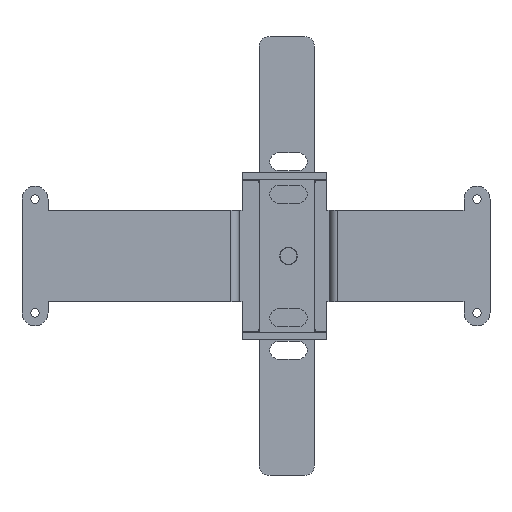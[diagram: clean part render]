
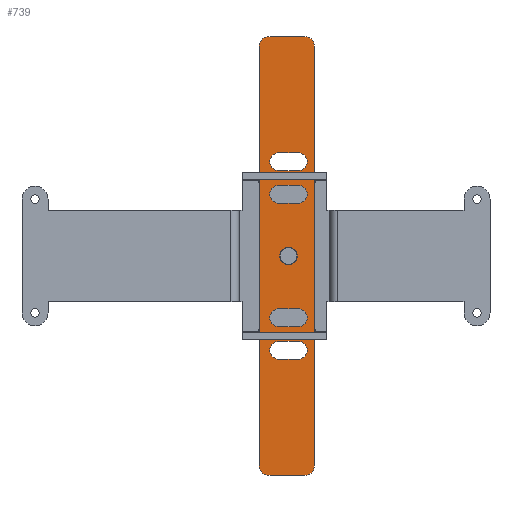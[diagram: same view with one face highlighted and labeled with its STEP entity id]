
A CAD part, front view. The second image highlights one B-rep face of the part: STEP entity #739.
In plain terms, the highlighted planar face has unit normal (0, -1, 0) as drawn and (0, 0, -1) by its records, which use the part's own axes.
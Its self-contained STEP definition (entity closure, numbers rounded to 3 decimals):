
#577=FACE_BOUND('',#1061,.T.);
#578=FACE_BOUND('',#1062,.T.);
#579=FACE_BOUND('',#1063,.T.);
#580=FACE_BOUND('',#1064,.T.);
#581=FACE_BOUND('',#1065,.T.);
#582=FACE_BOUND('',#1066,.T.);
#633=PLANE('',#3208);
#739=ADVANCED_FACE('',(#577,#578,#579,#580,#581,#582),#633,.F.);
#1061=EDGE_LOOP('',(#1717,#1718,#1719,#1720,#1721,#1722,#1723,#1724));
#1062=EDGE_LOOP('',(#1725,#1726));
#1063=EDGE_LOOP('',(#1727,#1728,#1729,#1730));
#1064=EDGE_LOOP('',(#1731,#1732,#1733,#1734));
#1065=EDGE_LOOP('',(#1735,#1736,#1737,#1738));
#1066=EDGE_LOOP('',(#1739,#1740,#1741,#1742));
#1195=CIRCLE('',#3194,3.);
#1196=CIRCLE('',#3195,3.);
#1197=CIRCLE('',#3196,3.);
#1198=CIRCLE('',#3197,3.);
#1199=CIRCLE('',#3198,2.75);
#1200=CIRCLE('',#3199,2.75);
#1201=CIRCLE('',#3200,2.75);
#1202=CIRCLE('',#3201,2.75);
#1203=CIRCLE('',#3202,2.75);
#1204=CIRCLE('',#3203,2.75);
#1205=CIRCLE('',#3204,2.75);
#1206=CIRCLE('',#3205,2.75);
#1207=CIRCLE('',#3206,2.75);
#1208=CIRCLE('',#3207,2.75);
#1717=ORIENTED_EDGE('',*,*,#2439,.F.);
#1718=ORIENTED_EDGE('',*,*,#2440,.T.);
#1719=ORIENTED_EDGE('',*,*,#2441,.F.);
#1720=ORIENTED_EDGE('',*,*,#2442,.T.);
#1721=ORIENTED_EDGE('',*,*,#2443,.F.);
#1722=ORIENTED_EDGE('',*,*,#2444,.T.);
#1723=ORIENTED_EDGE('',*,*,#2445,.F.);
#1724=ORIENTED_EDGE('',*,*,#2446,.T.);
#1725=ORIENTED_EDGE('',*,*,#2447,.F.);
#1726=ORIENTED_EDGE('',*,*,#2448,.F.);
#1727=ORIENTED_EDGE('',*,*,#2449,.F.);
#1728=ORIENTED_EDGE('',*,*,#2450,.F.);
#1729=ORIENTED_EDGE('',*,*,#2451,.F.);
#1730=ORIENTED_EDGE('',*,*,#2452,.F.);
#1731=ORIENTED_EDGE('',*,*,#2453,.F.);
#1732=ORIENTED_EDGE('',*,*,#2454,.F.);
#1733=ORIENTED_EDGE('',*,*,#2455,.F.);
#1734=ORIENTED_EDGE('',*,*,#2456,.F.);
#1735=ORIENTED_EDGE('',*,*,#2457,.F.);
#1736=ORIENTED_EDGE('',*,*,#2458,.F.);
#1737=ORIENTED_EDGE('',*,*,#2459,.F.);
#1738=ORIENTED_EDGE('',*,*,#2460,.F.);
#1739=ORIENTED_EDGE('',*,*,#2461,.F.);
#1740=ORIENTED_EDGE('',*,*,#2462,.F.);
#1741=ORIENTED_EDGE('',*,*,#2463,.F.);
#1742=ORIENTED_EDGE('',*,*,#2464,.F.);
#2121=VERTEX_POINT('',#4530);
#2122=VERTEX_POINT('',#4531);
#2123=VERTEX_POINT('',#4533);
#2124=VERTEX_POINT('',#4535);
#2125=VERTEX_POINT('',#4537);
#2126=VERTEX_POINT('',#4539);
#2127=VERTEX_POINT('',#4541);
#2128=VERTEX_POINT('',#4543);
#2129=VERTEX_POINT('',#4546);
#2130=VERTEX_POINT('',#4547);
#2131=VERTEX_POINT('',#4550);
#2132=VERTEX_POINT('',#4551);
#2133=VERTEX_POINT('',#4553);
#2134=VERTEX_POINT('',#4555);
#2135=VERTEX_POINT('',#4558);
#2136=VERTEX_POINT('',#4559);
#2137=VERTEX_POINT('',#4561);
#2138=VERTEX_POINT('',#4563);
#2139=VERTEX_POINT('',#4566);
#2140=VERTEX_POINT('',#4567);
#2141=VERTEX_POINT('',#4569);
#2142=VERTEX_POINT('',#4571);
#2143=VERTEX_POINT('',#4574);
#2144=VERTEX_POINT('',#4575);
#2145=VERTEX_POINT('',#4577);
#2146=VERTEX_POINT('',#4579);
#2439=EDGE_CURVE('',#2121,#2122,#2727,.T.);
#2440=EDGE_CURVE('',#2121,#2123,#1195,.T.);
#2441=EDGE_CURVE('',#2124,#2123,#2728,.T.);
#2442=EDGE_CURVE('',#2124,#2125,#1196,.T.);
#2443=EDGE_CURVE('',#2126,#2125,#2729,.T.);
#2444=EDGE_CURVE('',#2126,#2127,#1197,.T.);
#2445=EDGE_CURVE('',#2128,#2127,#2730,.T.);
#2446=EDGE_CURVE('',#2128,#2122,#1198,.T.);
#2447=EDGE_CURVE('',#2129,#2130,#1199,.T.);
#2448=EDGE_CURVE('',#2130,#2129,#1200,.T.);
#2449=EDGE_CURVE('',#2131,#2132,#1201,.T.);
#2450=EDGE_CURVE('',#2133,#2131,#2731,.T.);
#2451=EDGE_CURVE('',#2134,#2133,#1202,.T.);
#2452=EDGE_CURVE('',#2132,#2134,#2732,.T.);
#2453=EDGE_CURVE('',#2135,#2136,#1203,.T.);
#2454=EDGE_CURVE('',#2137,#2135,#2733,.T.);
#2455=EDGE_CURVE('',#2138,#2137,#1204,.T.);
#2456=EDGE_CURVE('',#2136,#2138,#2734,.T.);
#2457=EDGE_CURVE('',#2139,#2140,#1205,.T.);
#2458=EDGE_CURVE('',#2141,#2139,#2735,.T.);
#2459=EDGE_CURVE('',#2142,#2141,#1206,.T.);
#2460=EDGE_CURVE('',#2140,#2142,#2736,.T.);
#2461=EDGE_CURVE('',#2143,#2144,#2737,.T.);
#2462=EDGE_CURVE('',#2145,#2143,#1207,.T.);
#2463=EDGE_CURVE('',#2146,#2145,#2738,.T.);
#2464=EDGE_CURVE('',#2144,#2146,#1208,.T.);
#2727=LINE('',#4529,#2965);
#2728=LINE('',#4534,#2966);
#2729=LINE('',#4538,#2967);
#2730=LINE('',#4542,#2968);
#2731=LINE('',#4552,#2969);
#2732=LINE('',#4556,#2970);
#2733=LINE('',#4560,#2971);
#2734=LINE('',#4564,#2972);
#2735=LINE('',#4568,#2973);
#2736=LINE('',#4572,#2974);
#2737=LINE('',#4573,#2975);
#2738=LINE('',#4578,#2976);
#2965=VECTOR('',#3772,1.);
#2966=VECTOR('',#3775,1.);
#2967=VECTOR('',#3778,1.);
#2968=VECTOR('',#3781,1.);
#2969=VECTOR('',#3790,1.);
#2970=VECTOR('',#3793,1.);
#2971=VECTOR('',#3796,1.);
#2972=VECTOR('',#3799,1.);
#2973=VECTOR('',#3802,1.);
#2974=VECTOR('',#3805,1.);
#2975=VECTOR('',#3806,1.);
#2976=VECTOR('',#3809,1.);
#3194=AXIS2_PLACEMENT_3D('',#4532,#3773,#3774);
#3195=AXIS2_PLACEMENT_3D('',#4536,#3776,#3777);
#3196=AXIS2_PLACEMENT_3D('',#4540,#3779,#3780);
#3197=AXIS2_PLACEMENT_3D('',#4544,#3782,#3783);
#3198=AXIS2_PLACEMENT_3D('',#4545,#3784,#3785);
#3199=AXIS2_PLACEMENT_3D('',#4548,#3786,#3787);
#3200=AXIS2_PLACEMENT_3D('',#4549,#3788,#3789);
#3201=AXIS2_PLACEMENT_3D('',#4554,#3791,#3792);
#3202=AXIS2_PLACEMENT_3D('',#4557,#3794,#3795);
#3203=AXIS2_PLACEMENT_3D('',#4562,#3797,#3798);
#3204=AXIS2_PLACEMENT_3D('',#4565,#3800,#3801);
#3205=AXIS2_PLACEMENT_3D('',#4570,#3803,#3804);
#3206=AXIS2_PLACEMENT_3D('',#4576,#3807,#3808);
#3207=AXIS2_PLACEMENT_3D('',#4580,#3810,#3811);
#3208=AXIS2_PLACEMENT_3D('',#4581,#3812,#3813);
#3772=DIRECTION('',(1.,0.,0.));
#3773=DIRECTION('',(0.,0.,-1.));
#3774=DIRECTION('',(0.,-1.,0.));
#3775=DIRECTION('',(0.,-1.,0.));
#3776=DIRECTION('',(0.,0.,-1.));
#3777=DIRECTION('',(-1.,0.,0.));
#3778=DIRECTION('',(-1.,0.,0.));
#3779=DIRECTION('',(0.,0.,-1.));
#3780=DIRECTION('',(0.,1.,0.));
#3781=DIRECTION('',(0.,1.,0.));
#3782=DIRECTION('',(0.,0.,-1.));
#3783=DIRECTION('',(1.,0.,0.));
#3784=DIRECTION('',(0.,0.,-1.));
#3785=DIRECTION('',(-1.,0.,0.));
#3786=DIRECTION('',(0.,0.,-1.));
#3787=DIRECTION('',(1.,0.,0.));
#3788=DIRECTION('',(0.,0.,-1.));
#3789=DIRECTION('',(0.,-1.,0.));
#3790=DIRECTION('',(-1.,0.,0.));
#3791=DIRECTION('',(0.,0.,-1.));
#3792=DIRECTION('',(0.,1.,0.));
#3793=DIRECTION('',(1.,0.,0.));
#3794=DIRECTION('',(0.,0.,-1.));
#3795=DIRECTION('',(0.,-1.,0.));
#3796=DIRECTION('',(-1.,0.,0.));
#3797=DIRECTION('',(0.,0.,-1.));
#3798=DIRECTION('',(0.,1.,0.));
#3799=DIRECTION('',(1.,0.,0.));
#3800=DIRECTION('',(0.,0.,-1.));
#3801=DIRECTION('',(0.,-1.,0.));
#3802=DIRECTION('',(-1.,0.,0.));
#3803=DIRECTION('',(0.,0.,-1.));
#3804=DIRECTION('',(0.,1.,0.));
#3805=DIRECTION('',(1.,0.,0.));
#3806=DIRECTION('',(-1.,0.,0.));
#3807=DIRECTION('',(0.,0.,-1.));
#3808=DIRECTION('',(0.,1.,0.));
#3809=DIRECTION('',(1.,0.,0.));
#3810=DIRECTION('',(0.,0.,-1.));
#3811=DIRECTION('',(0.,-1.,0.));
#3812=DIRECTION('',(0.,0.,1.));
#3813=DIRECTION('',(-1.,0.,0.));
#4529=CARTESIAN_POINT('',(3.,0.,0.));
#4530=CARTESIAN_POINT('',(3.,0.,0.));
#4531=CARTESIAN_POINT('',(14.,0.,0.));
#4532=CARTESIAN_POINT('',(3.,3.,0.));
#4533=CARTESIAN_POINT('',(0.,3.,0.));
#4534=CARTESIAN_POINT('',(0.,132.,0.));
#4535=CARTESIAN_POINT('',(0.,132.,0.));
#4536=CARTESIAN_POINT('',(3.,132.,0.));
#4537=CARTESIAN_POINT('',(3.,135.,0.));
#4538=CARTESIAN_POINT('',(15.,135.,0.));
#4539=CARTESIAN_POINT('',(14.,135.,0.));
#4540=CARTESIAN_POINT('',(14.,132.,0.));
#4541=CARTESIAN_POINT('',(17.,132.,0.));
#4542=CARTESIAN_POINT('',(17.,3.,0.));
#4543=CARTESIAN_POINT('',(17.,3.,0.));
#4544=CARTESIAN_POINT('',(14.,3.,0.));
#4545=CARTESIAN_POINT('',(9.,67.5,0.));
#4546=CARTESIAN_POINT('',(6.25,67.5,0.));
#4547=CARTESIAN_POINT('',(11.75,67.5,0.));
#4548=CARTESIAN_POINT('',(9.,67.5,0.));
#4549=CARTESIAN_POINT('',(6.,86.5,0.));
#4550=CARTESIAN_POINT('',(6.,83.75,0.));
#4551=CARTESIAN_POINT('',(6.,89.25,0.));
#4552=CARTESIAN_POINT('',(12.,83.75,0.));
#4553=CARTESIAN_POINT('',(12.,83.75,0.));
#4554=CARTESIAN_POINT('',(12.,86.5,0.));
#4555=CARTESIAN_POINT('',(12.,89.25,0.));
#4556=CARTESIAN_POINT('',(6.,89.25,0.));
#4557=CARTESIAN_POINT('',(6.,48.5,0.));
#4558=CARTESIAN_POINT('',(6.,45.75,0.));
#4559=CARTESIAN_POINT('',(6.,51.25,0.));
#4560=CARTESIAN_POINT('',(12.,45.75,0.));
#4561=CARTESIAN_POINT('',(12.,45.75,0.));
#4562=CARTESIAN_POINT('',(12.,48.5,0.));
#4563=CARTESIAN_POINT('',(12.,51.25,0.));
#4564=CARTESIAN_POINT('',(6.,51.25,0.));
#4565=CARTESIAN_POINT('',(6.,38.5,0.));
#4566=CARTESIAN_POINT('',(6.,35.75,0.));
#4567=CARTESIAN_POINT('',(6.,41.25,0.));
#4568=CARTESIAN_POINT('',(12.,35.75,0.));
#4569=CARTESIAN_POINT('',(12.,35.75,0.));
#4570=CARTESIAN_POINT('',(12.,38.5,0.));
#4571=CARTESIAN_POINT('',(12.,41.25,0.));
#4572=CARTESIAN_POINT('',(6.,41.25,0.));
#4573=CARTESIAN_POINT('',(12.,93.75,0.));
#4574=CARTESIAN_POINT('',(12.,93.75,0.));
#4575=CARTESIAN_POINT('',(6.,93.75,0.));
#4576=CARTESIAN_POINT('',(12.,96.5,0.));
#4577=CARTESIAN_POINT('',(12.,99.25,0.));
#4578=CARTESIAN_POINT('',(6.,99.25,0.));
#4579=CARTESIAN_POINT('',(6.,99.25,0.));
#4580=CARTESIAN_POINT('',(6.,96.5,0.));
#4581=CARTESIAN_POINT('',(0.,0.,0.));
